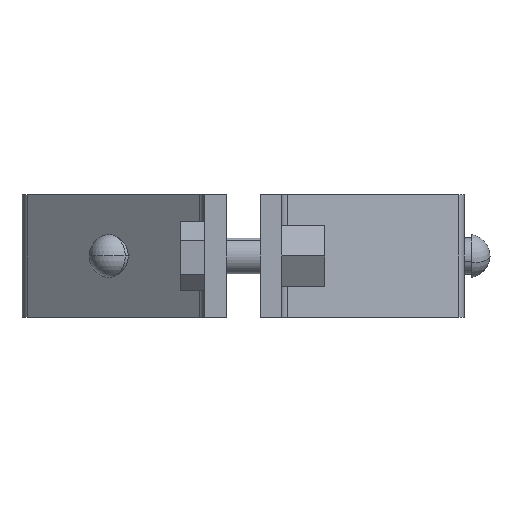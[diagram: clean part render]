
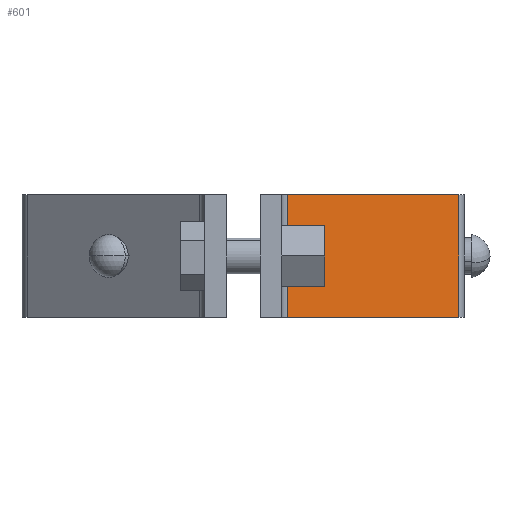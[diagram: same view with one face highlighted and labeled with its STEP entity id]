
A CAD part, left-side view. The second image highlights one B-rep face of the part: STEP entity #601.
In plain terms, the highlighted planar face has unit normal (-0.77, -0.638, 0) as drawn and (-0.77, 0.638, 0) by its records, which use the part's own axes.
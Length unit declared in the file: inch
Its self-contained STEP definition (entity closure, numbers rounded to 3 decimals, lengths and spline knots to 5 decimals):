
#2 = ORIENTED_EDGE ( 'NONE', *, *, #2472, .T. ) ;
#107 = CARTESIAN_POINT ( 'NONE',  ( 0.75599, 0.22221, 0. ) ) ;
#375 = DIRECTION ( 'NONE',  ( 0., 0., 1. ) ) ;
#412 = DIRECTION ( 'NONE',  ( -0.638, -0.77, 0. ) ) ;
#512 = LINE ( 'NONE', #1751, #1462 ) ;
#601 = ADVANCED_FACE ( 'NONE', ( #1615 ), #1132, .T. ) ;
#904 = CARTESIAN_POINT ( 'NONE',  ( 1.92151, 1.62779, 0. ) ) ;
#979 = EDGE_CURVE ( 'NONE', #1675, #1930, #2569, .T. ) ;
#1036 = ORIENTED_EDGE ( 'NONE', *, *, #979, .T. ) ;
#1111 = DIRECTION ( 'NONE',  ( -0.638, -0.77, 0. ) ) ;
#1132 = PLANE ( 'NONE',  #1213 ) ;
#1193 = ORIENTED_EDGE ( 'NONE', *, *, #1264, .T. ) ;
#1213 = AXIS2_PLACEMENT_3D ( 'NONE', #2591, #1585, #412 ) ;
#1227 = EDGE_LOOP ( 'NONE', ( #2183, #2, #1193, #1036 ) ) ;
#1264 = EDGE_CURVE ( 'NONE', #2210, #1675, #2520, .T. ) ;
#1330 = VECTOR ( 'NONE', #1111, 39.37008 ) ;
#1462 = VECTOR ( 'NONE', #2729, 39.37008 ) ;
#1486 = CARTESIAN_POINT ( 'NONE',  ( 0.75599, 0.22221, 0. ) ) ;
#1585 = DIRECTION ( 'NONE',  ( -0.77, 0.638, 0. ) ) ;
#1615 = FACE_OUTER_BOUND ( 'NONE', #1227, .T. ) ;
#1675 = VERTEX_POINT ( 'NONE', #2859 ) ;
#1751 = CARTESIAN_POINT ( 'NONE',  ( 0.7185, 0.177, 0. ) ) ;
#1810 = CARTESIAN_POINT ( 'NONE',  ( 0.7185, 0.177, -1.004 ) ) ;
#1812 = CARTESIAN_POINT ( 'NONE',  ( 1.92151, 1.62779, -1.004 ) ) ;
#1813 = VECTOR ( 'NONE', #2792, 39.37008 ) ;
#1930 = VERTEX_POINT ( 'NONE', #1486 ) ;
#2053 = LINE ( 'NONE', #1812, #1813 ) ;
#2183 = ORIENTED_EDGE ( 'NONE', *, *, #3029, .F. ) ;
#2210 = VERTEX_POINT ( 'NONE', #2672 ) ;
#2472 = EDGE_CURVE ( 'NONE', #2577, #2210, #2053, .T. ) ;
#2520 = LINE ( 'NONE', #1810, #1330 ) ;
#2569 = LINE ( 'NONE', #107, #2860 ) ;
#2577 = VERTEX_POINT ( 'NONE', #904 ) ;
#2591 = CARTESIAN_POINT ( 'NONE',  ( 0.7185, 0.177, -1.004 ) ) ;
#2672 = CARTESIAN_POINT ( 'NONE',  ( 1.92151, 1.62779, -1.004 ) ) ;
#2729 = DIRECTION ( 'NONE',  ( -0.638, -0.77, 0. ) ) ;
#2792 = DIRECTION ( 'NONE',  ( 0., 0., -1. ) ) ;
#2859 = CARTESIAN_POINT ( 'NONE',  ( 0.75599, 0.22221, -1.004 ) ) ;
#2860 = VECTOR ( 'NONE', #375, 39.37008 ) ;
#3029 = EDGE_CURVE ( 'NONE', #2577, #1930, #512, .T. ) ;
